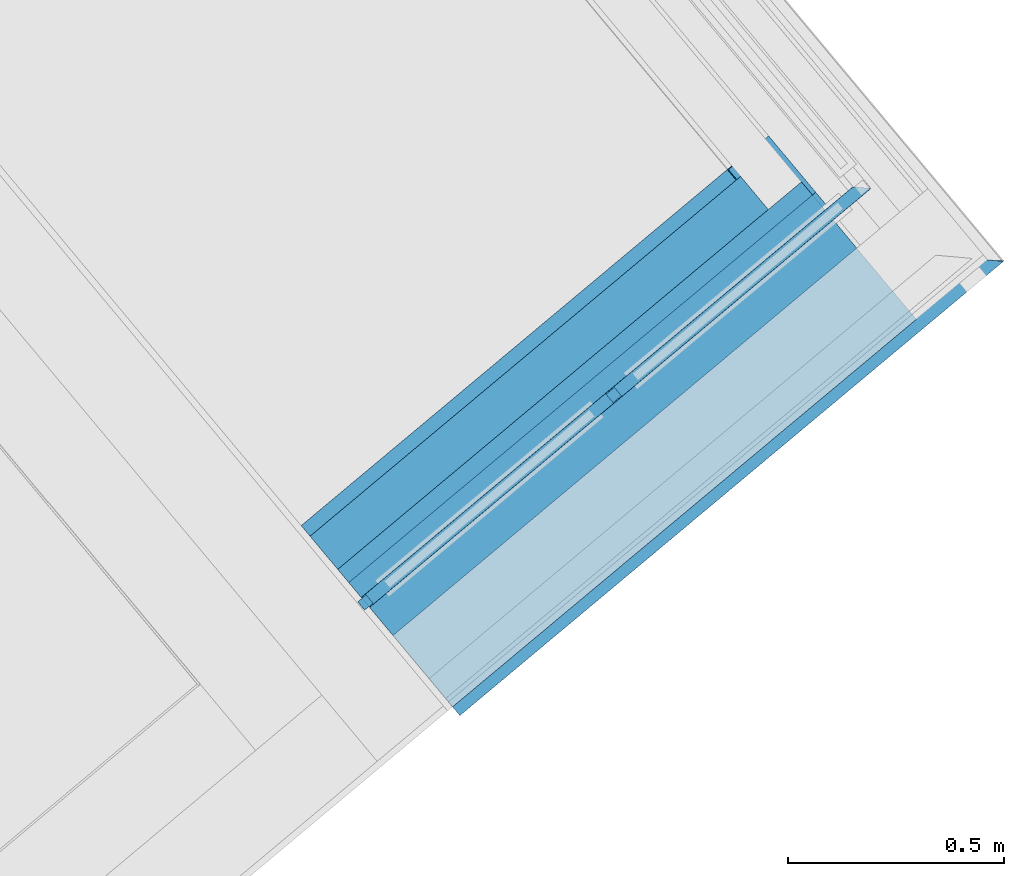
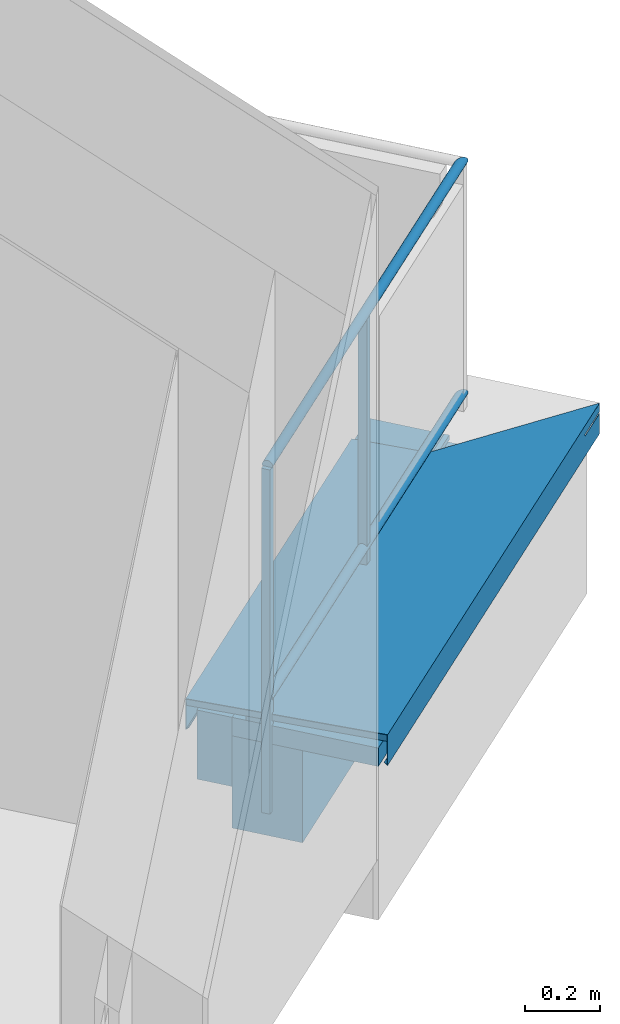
# One storey, part 30 of 58: 10 building element parts, 2 elements without a shape of their own.
"""IFC4 building model written with IfcOpenShell, lengths in metres."""

from ifc_helpers import new_model, entity, si_unit, converted_unit, derived_unit, direction, frame, origin_with_axes, place, context, subcontext, project, spatial, polygons, material, type_object, element, aggregate, save


model = new_model("IFC4")

# Units and contexts
model_context = context("Model", 3, precision=1e-05, world=origin_with_axes(), true_north=direction((0.0, 1.0)))
body_context = subcontext(model_context, "Body", "Model", "MODEL_VIEW")
ifc_project = project(units=[si_unit("LENGTHUNIT", "METRE"), si_unit("AREAUNIT", "SQUARE_METRE"), si_unit("VOLUMEUNIT", "CUBIC_METRE"), converted_unit("PLANEANGLEUNIT", "DEGREE", entity("IfcPlaneAngleMeasure", 0.0174532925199), si_unit("PLANEANGLEUNIT", "RADIAN"), dimensions=[0, 0, 0, 0, 0, 0, 0]), converted_unit("TIMEUNIT", "Year", entity("IfcTimeMeasure", 31556926.0), si_unit("TIMEUNIT", "SECOND"), dimensions=[0, 0, 1, 0, 0, 0, 0]), si_unit("MASSUNIT", "GRAM", prefix="KILO"), si_unit("THERMODYNAMICTEMPERATUREUNIT", "DEGREE_CELSIUS"), si_unit("LUMINOUSINTENSITYUNIT", "LUMEN"), si_unit("ENERGYUNIT", "JOULE", prefix="MEGA"), derived_unit("THERMALCONDUCTANCEUNIT", [(si_unit("POWERUNIT", "WATT"), 1), (si_unit("LENGTHUNIT", "METRE"), -1), (si_unit("THERMODYNAMICTEMPERATUREUNIT", "KELVIN"), -1)]), derived_unit("SPECIFICHEATCAPACITYUNIT", [(si_unit("ENERGYUNIT", "JOULE"), 1), (si_unit("MASSUNIT", "GRAM", prefix="KILO"), -1), (si_unit("THERMODYNAMICTEMPERATUREUNIT", "KELVIN"), -1)]), derived_unit("MASSDENSITYUNIT", [(si_unit("MASSUNIT", "GRAM", prefix="KILO"), 1), (si_unit("VOLUMEUNIT", "CUBIC_METRE"), -1)])], contexts=[model_context])

# Site, building, storey
site_placement = place(None, frame((-0.00153261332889, -0.00661245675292, 0.0), z_axis=(0.0, 0.0, 1.0), x_axis=(1.0, 0.0, 0.0)))
site = spatial("IfcSite", under=ifc_project, at=site_placement, Name="Site", CompositionType="ELEMENT")
building_placement = place(site_placement, origin_with_axes())
building = spatial("IfcBuilding", under=site, at=building_placement, Name="Building", CompositionType="ELEMENT")
storey_placement = place(building_placement, frame((0.0, 0.0, 5.7), z_axis=(0.0, 0.0, 1.0), x_axis=(1.0, 0.0, 0.0)))
storey = spatial("IfcBuildingStorey", under=building, at=storey_placement, Name="DG1", CompositionType="ELEMENT", Elevation=5.7)

# Wall, building element parts
wall_type = type_object("IfcWallType", Name="Balkon Dämmung runter 574 x 610", PredefinedType="NOTDEFINED")
wall_placement = place(storey_placement, frame((13.259988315, 20.4436832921, -0.2), z_axis=(0.0, 0.0, 1.0), x_axis=(0.767365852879, 0.641209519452, 0.0)))
wall = element("IfcWall", 1, at=wall_placement, inside=storey, type_object=wall_type, Name="Wand-004", PredefinedType="NOTDEFINED")
ifc_material_1 = material(Name="Stahl")
building_element_part_1_placement = place(wall_placement, origin_with_axes())
building_element_part_1 = element("IfcBuildingElementPart", 2, at=building_element_part_1_placement, material=ifc_material_1, Name="Stahl", PredefinedType="NOTDEFINED", context=body_context, shape_type="Tessellation", body=[
    polygons([(0.0, 0.330698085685, 0.587937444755), (0.0, 0.330698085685, 0.491006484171), (1.30012100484, 0.330698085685, 0.491006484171), (1.30012100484, 0.330698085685, 0.496604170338), (1.28747735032, 0.330698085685, 0.496604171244), (1.28652006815, 0.330698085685, 0.497561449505), (1.28652006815, 0.330698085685, 0.498822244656), (1.28652006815, 0.330698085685, 0.498915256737), (1.28652006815, 0.330698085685, 0.499999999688), (1.28652006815, 0.330698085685, 0.506731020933), (1.28652006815, 0.330698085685, 0.509050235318), (1.28652006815, 0.330698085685, 0.509099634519), (1.28652006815, 0.330698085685, 0.51136132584), (1.28652006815, 0.330698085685, 0.511410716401), (1.28652006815, 0.330698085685, 0.519224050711), (1.28652006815, 0.330698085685, 0.519273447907), (1.28652006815, 0.330698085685, 0.559999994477), (1.28652006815, 0.330698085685, 0.567947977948), (1.28652006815, 0.330698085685, 0.573880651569), (1.28652006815, 0.330698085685, 0.575576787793), (1.28652006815, 0.330698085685, 0.575979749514), (1.28652006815, 0.330698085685, 0.57982217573), (1.28652006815, 0.330698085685, 0.581921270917), (1.28652006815, 0.330698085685, 0.584015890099), (1.28652006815, 0.330698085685, 0.586106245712), (1.28652006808, 0.330698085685, 0.587937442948), (0.0, 0.332051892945, 0.489652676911), (0.0, 0.331094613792, 0.488695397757), (0.0, 0.321878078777, 0.497911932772), (0.0, 0.32288233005, 0.498822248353), (0.0, -0.239276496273, 0.608570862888), (0.0, -0.240152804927, 0.608602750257), (0.0, -0.240146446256, 0.51136132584), (0.0, -0.232283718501, 0.519224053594), (0.0, -0.231373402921, 0.518219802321), (0.0, -0.240542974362, 0.509050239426), (0.0, -0.241500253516, 0.510007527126), (0.0, -0.241500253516, 0.610006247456), (0.0, 0.332051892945, 0.589243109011), (1.30012097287, 0.322882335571, 0.498822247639), (1.30012098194, 0.325100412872, 0.496604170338), (1.30012101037, 0.332051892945, 0.491006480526), (1.30012101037, 0.332051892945, 0.496604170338), (1.28747735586, 0.332051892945, 0.496604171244), (1.28652007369, 0.332051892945, 0.497561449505), (1.28652007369, 0.332051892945, 0.498822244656), (1.28652007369, 0.332051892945, 0.498915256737), (1.28652007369, 0.332051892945, 0.499999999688), (1.28652007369, 0.332051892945, 0.506731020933), (1.28652007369, 0.332051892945, 0.509050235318), (1.28652007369, 0.332051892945, 0.509099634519), (1.28652007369, 0.332051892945, 0.51136132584), (1.28652007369, 0.332051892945, 0.511410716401), (1.28652007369, 0.332051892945, 0.519224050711), (1.28652007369, 0.332051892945, 0.519273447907), (1.28652007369, 0.332051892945, 0.559999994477), (1.28652007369, 0.332051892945, 0.567947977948), (1.28652007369, 0.332051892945, 0.573880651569), (1.28652007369, 0.332051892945, 0.575576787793), (1.28652007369, 0.332051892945, 0.575979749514), (1.28652007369, 0.332051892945, 0.57982217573), (1.28652007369, 0.332051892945, 0.581921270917), (1.28652007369, 0.332051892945, 0.584015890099), (1.28652007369, 0.332051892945, 0.586106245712), (1.28652007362, 0.332051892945, 0.587937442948), (1.28651917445, 0.112227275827, 0.595846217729), (1.28651902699, 0.0761598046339, 0.597151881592), (1.60182724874, -0.239276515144, 0.608570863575), (1.30012101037, 0.332051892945, 0.489652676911), (1.30012100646, 0.331094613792, 0.488695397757), (1.300120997, 0.328783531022, 0.491006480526), (1.30012097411, 0.323185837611, 0.496604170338), (1.30012096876, 0.32187807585, 0.497911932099), (1.60270772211, -0.240152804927, 0.608602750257), (1.64021248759, -0.240152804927, 0.608602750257), (1.64147858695, -0.240152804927, 0.608602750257), (1.64147858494, -0.240152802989, 0.608570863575), (1.64147775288, -0.240151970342, 0.595846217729), (1.64147723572, -0.240151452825, 0.587937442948), (1.64147711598, -0.240151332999, 0.586106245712), (1.64147697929, -0.240151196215, 0.584015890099), (1.64147684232, -0.240151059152, 0.581921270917), (1.59012603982, -0.240151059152, 0.581921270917), (1.53024364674, -0.240151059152, 0.581921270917), (1.53024364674, -0.240150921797, 0.57982217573), (1.53024364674, -0.240150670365, 0.575979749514), (1.5901579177, -0.240150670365, 0.575979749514), (1.6414764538, -0.240150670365, 0.575979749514), (1.64147642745, -0.240150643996, 0.575576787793), (1.64147631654, -0.240150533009, 0.573880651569), (1.6414759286, -0.2401501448, 0.567947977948), (1.64147540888, -0.240149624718, 0.559999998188), (1.6414727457, -0.240146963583, 0.519273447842), (1.64147274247, -0.240146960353, 0.519224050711), (1.64147223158, -0.240146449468, 0.511410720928), (1.64282604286, -0.240146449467, 0.511410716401), (1.64282604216, -0.240146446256, 0.51136132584), (1.6396070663, -0.24014644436, 0.511361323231), (1.63955767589, -0.24009705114, 0.511410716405), (1.63269921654, -0.233238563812, 0.518269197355), (1.63356475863, -0.23228372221, 0.519224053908), (1.63269922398, -0.231418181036, 0.518269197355), (1.63274862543, -0.23137340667, 0.518219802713), (1.63955768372, -0.23818249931, 0.511410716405), (1.63960707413, -0.238231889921, 0.51136132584), (1.64186875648, -0.240493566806, 0.509099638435), (1.61511864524, -0.240493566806, 0.509099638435), (1.61511864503, -0.240542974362, 0.509050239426), (1.61511864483, -0.240592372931, 0.509099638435), (1.64186875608, -0.240592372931, 0.509099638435), (1.64096085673, -0.241500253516, 0.510007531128), (1.63960706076, -0.241500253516, 0.511361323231), (1.64282603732, -0.241500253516, 0.511361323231), (1.64282603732, -0.241500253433, 0.511410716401), (1.64147222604, -0.241500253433, 0.511410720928), (1.64147273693, -0.241500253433, 0.519224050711), (1.64147274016, -0.241500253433, 0.519273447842), (1.64147540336, -0.241500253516, 0.559999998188), (1.64147592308, -0.241500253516, 0.567947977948), (1.64147631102, -0.241500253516, 0.573880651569), (1.64147642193, -0.241500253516, 0.575576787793), (1.64147644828, -0.241500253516, 0.575979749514), (1.59015791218, -0.241500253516, 0.575979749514), (1.53024364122, -0.241500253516, 0.575979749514), (1.53024364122, -0.241500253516, 0.57982217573), (1.53024364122, -0.241500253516, 0.581921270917), (1.5901260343, -0.241500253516, 0.581921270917), (1.6414768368, -0.241500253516, 0.581921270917), (1.64147697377, -0.241500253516, 0.584015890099), (1.64147711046, -0.241500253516, 0.586106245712), (1.6414772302, -0.241500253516, 0.587937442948), (1.64147774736, -0.241500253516, 0.595846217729), (1.64147857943, -0.241500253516, 0.608570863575), (1.64147858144, -0.241500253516, 0.608602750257), (1.64021248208, -0.241500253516, 0.608602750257), (1.6027077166, -0.241500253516, 0.608602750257), (1.60407158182, -0.241500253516, 0.60865214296), (1.64146214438, -0.241500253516, 0.610006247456), (1.60407173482, -0.204095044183, 0.60865214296), (1.60270787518, -0.202730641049, 0.608602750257), (1.60182740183, -0.201849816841, 0.608570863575), (1.28651918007, 0.113583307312, 0.597151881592), (1.28651932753, 0.149650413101, 0.595846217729), (1.28652007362, 0.332051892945, 0.589243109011)], [[[1, 2, 3, 4, 5, 6, 7, 8, 9, 10, 11, 12, 13, 14, 15, 16, 17, 18, 19, 20, 21, 22, 23, 24, 25, 26]], [[27, 28, 29, 30, 2, 1, 31, 32, 33, 34, 35, 36, 37, 38, 39]], [[2, 30, 40, 41, 3]], [[3, 42, 43, 4]], [[43, 44, 5, 4]], [[45, 6, 5, 44]], [[6, 45, 46, 7]], [[7, 46, 47, 8]], [[8, 47, 48, 9]], [[9, 48, 49, 10]], [[10, 49, 50, 11]], [[11, 50, 51, 12]], [[51, 52, 13, 12]], [[13, 52, 53, 14]], [[15, 14, 53, 54]], [[16, 15, 54, 55]], [[17, 16, 55, 56]], [[18, 17, 56, 57]], [[19, 18, 57, 58]], [[20, 19, 58, 59]], [[21, 20, 59, 60]], [[22, 21, 60, 61]], [[61, 62, 23, 22]], [[23, 62, 63, 24]], [[63, 64, 25, 24]], [[64, 65, 26, 25]], [[31, 1, 26, 66, 67, 68]], [[28, 27, 69, 70]], [[29, 28, 70, 71, 72, 73]], [[30, 29, 73, 40]], [[32, 31, 68, 74]], [[33, 32, 74, 75, 76, 77, 78, 79, 80, 81, 82, 83, 84, 85, 86, 87, 88, 89, 90, 91, 92, 93, 94, 95, 96, 97, 98]], [[34, 33, 98, 99, 100, 101]], [[35, 34, 101, 102, 103]], [[36, 35, 103, 104, 105, 106, 107, 108]], [[37, 36, 108, 109, 110, 111]], [[38, 37, 111, 112, 113, 114, 115, 116, 117, 118, 119, 120, 121, 122, 123, 124, 125, 126, 127, 128, 129, 130, 131, 132, 133, 134, 135, 136, 137, 138]], [[39, 38, 138, 139, 140, 141, 142, 143, 144]], [[27, 39, 144, 65, 64, 63, 62, 61, 60, 59, 58, 57, 56, 55, 54, 53, 52, 51, 50, 49, 48, 47, 46, 45, 44, 43, 42, 69]], [[41, 40, 73, 72]], [[3, 41, 72, 71]], [[69, 42, 3, 71, 70]], [[65, 144, 143, 66, 26]], [[66, 143, 142, 67]], [[141, 68, 67, 142]], [[68, 141, 140, 74]], [[74, 136, 135, 75]], [[75, 135, 134, 76]], [[133, 77, 76, 134]], [[132, 78, 77, 133]], [[131, 79, 78, 132]], [[80, 79, 131, 130]], [[80, 130, 129, 81]], [[129, 128, 82, 81]], [[127, 83, 82, 128]], [[126, 84, 83, 127]], [[125, 85, 84, 126]], [[124, 86, 85, 125]], [[86, 124, 123, 87]], [[87, 123, 122, 88]], [[122, 121, 89, 88]], [[121, 120, 90, 89]], [[120, 119, 91, 90]], [[92, 91, 119, 118]], [[93, 92, 118, 117]], [[94, 93, 117, 116]], [[95, 94, 116, 115]], [[95, 115, 114, 96]], [[114, 113, 97, 96]], [[112, 98, 97, 113]], [[98, 105, 104, 99]], [[99, 104, 103, 102, 100]], [[100, 102, 101]], [[105, 98, 112, 111, 110, 106]], [[109, 107, 106, 110]], [[108, 107, 109]], [[136, 74, 140, 139, 137]], [[137, 139, 138]]], closed=True),
])
ifc_material_2 = material(Name="Holzwerkstoff")
building_element_part_2_placement = place(wall_placement, origin_with_axes())
building_element_part_2 = element("IfcBuildingElementPart", 3, at=building_element_part_2_placement, material=ifc_material_2, Name="Holzwerkstoff", PredefinedType="NOTDEFINED", context=body_context, shape_type="Tessellation", body=[
    polygons([(0.0, 0.329999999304, 0.567947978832), (0.0, 0.330698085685, 0.587937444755), (1.28815005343, 0.330698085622, 0.587937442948), (1.28821400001, 0.330634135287, 0.586106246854), (1.28828699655, 0.330561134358, 0.584015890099), (1.28836014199, 0.330487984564, 0.581921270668), (1.28843344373, 0.330414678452, 0.579822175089), (1.28856762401, 0.330280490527, 0.575979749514), (1.28858169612, 0.330266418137, 0.575576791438), (1.41017729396, 0.33026641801, 0.575576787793), (1.41018672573, 0.330207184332, 0.573880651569), (1.41021971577, 0.329999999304, 0.567947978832), (0.0, -0.130124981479, 0.584015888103), (0.0, -0.189984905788, 0.586106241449), (0.0, -0.239999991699, 0.587852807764), (0.0, -0.239276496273, 0.608570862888), (0.0, 0.160110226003, 0.573880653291), (0.0, 0.0999999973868, 0.575979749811), (1.63939516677, -0.239276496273, 0.608570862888), (1.28787297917, 0.11222723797, 0.5958462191), (1.28814771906, -0.239997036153, 0.587937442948), (1.28815067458, -0.239999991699, 0.587852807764), (1.28821187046, -0.189985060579, 0.586106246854), (1.28828511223, -0.130124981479, 0.584015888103), (1.28835850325, -0.0701429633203, 0.581921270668), (1.28843205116, -0.0100327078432, 0.579822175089), (1.28856668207, 0.100000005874, 0.575979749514), (1.28858080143, 0.111539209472, 0.575576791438), (1.41017639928, 0.111539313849, 0.575576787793), (1.41018602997, 0.160110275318, 0.573880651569), (1.28787153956, -0.239720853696, 0.5958462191)], [[[1, 2, 3, 4, 5, 6, 7, 8, 9, 10, 11, 12]], [[13, 14, 15, 16, 2, 1, 17, 18]], [[2, 16, 19, 20, 3]], [[4, 3, 21, 22, 23]], [[5, 4, 23, 24]], [[6, 5, 24, 25]], [[26, 7, 6, 25]], [[27, 8, 7, 26]], [[27, 28, 9, 8]], [[9, 28, 29, 10]], [[11, 10, 29, 30]], [[30, 12, 11]], [[17, 1, 12, 30]], [[14, 13, 24, 23]], [[15, 14, 23, 22]], [[16, 15, 22, 21, 31, 19]], [[18, 17, 30, 29, 28, 27]], [[13, 18, 27, 26, 25, 24]], [[31, 20, 19]], [[3, 20, 31, 21]]], closed=True),
])
ifc_material_3 = material(Name="EPS 1")
building_element_part_3_placement = place(wall_placement, origin_with_axes())
building_element_part_3 = element("IfcBuildingElementPart", 4, at=building_element_part_3_placement, material=ifc_material_3, Name="EPS 1", PredefinedType="NOTDEFINED", context=body_context, shape_type="Tessellation", body=[
    polygons([(0.0, 0.199999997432, 0.335), (0.0, 0.3, 0.335), (1.30012087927, 0.3, 0.335), (1.30012047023, 0.199999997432, 0.335), (0.0, 0.2, 0.560000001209), (0.0, 0.3, 0.560000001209), (1.30012087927, 0.3, 0.560000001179), (1.30012087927, 0.3, 0.519273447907), (1.30012087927, 0.3, 0.519224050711), (1.30012087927, 0.3, 0.511410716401), (1.30012087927, 0.3, 0.51136132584), (1.30012087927, 0.3, 0.509099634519), (1.30012087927, 0.3, 0.509050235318), (1.30012087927, 0.3, 0.506731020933), (1.30012087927, 0.3, 0.499999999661), (1.30012087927, 0.3, 0.498915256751), (1.30012087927, 0.3, 0.498822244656), (1.30012087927, 0.3, 0.496604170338), (1.30012087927, 0.3, 0.491006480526), (1.30012087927, 0.3, 0.488695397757), (1.30012047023, 0.199999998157, 0.488695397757), (1.30012047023, 0.199999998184, 0.491006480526), (1.30012047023, 0.199999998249, 0.496604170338), (1.30012047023, 0.199999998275, 0.498822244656), (1.30012047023, 0.199999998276, 0.498915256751), (1.30012047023, 0.199999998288, 0.499999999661), (1.30012047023, 0.199999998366, 0.506731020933), (1.30012047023, 0.199999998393, 0.509050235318), (1.30012047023, 0.199999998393, 0.509099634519), (1.30012047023, 0.19999999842, 0.51136132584), (1.30012047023, 0.19999999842, 0.511410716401), (1.30012047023, 0.199999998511, 0.519224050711), (1.30012047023, 0.199999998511, 0.519273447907), (1.30012047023, 0.199999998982, 0.560000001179)], [[[1, 2, 3, 4]], [[2, 1, 5, 6]], [[2, 6, 7, 8, 9, 10, 11, 12, 13, 14, 15, 16, 17, 18, 19, 20, 3]], [[3, 20, 21, 4]], [[5, 1, 4, 21, 22, 23, 24, 25, 26, 27, 28, 29, 30, 31, 32, 33, 34]], [[6, 5, 34, 7]], [[34, 33, 8, 7]], [[33, 32, 9, 8]], [[32, 31, 10, 9]], [[31, 30, 11, 10]], [[30, 29, 12, 11]], [[29, 28, 13, 12]], [[14, 13, 28, 27]], [[15, 14, 27, 26]], [[16, 15, 26, 25]], [[17, 16, 25, 24]], [[18, 17, 24, 23]], [[19, 18, 23, 22]], [[20, 19, 22, 21]]], closed=True),
])
ifc_material_4 = material(Name="Vollholz")
building_element_part_4_placement = place(wall_placement, origin_with_axes())
building_element_part_4 = element("IfcBuildingElementPart", 5, at=building_element_part_4_placement, material=ifc_material_4, Name="Vollholz", PredefinedType="NOTDEFINED", context=body_context, shape_type="Tessellation", body=[
    polygons([(1.41017635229, 0.1, 0.575576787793), (1.41017411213, 0.1, 0.575979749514), (0.0, 0.1, 0.575979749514), (0.0, 0.1, 0.560000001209), (1.41026297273, 0.1, 0.560000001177), (1.41021877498, 0.1, 0.567947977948), (1.41018578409, 0.1, 0.573880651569), (1.4101763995, 0.11153931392, 0.575576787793), (1.41018602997, 0.160110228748, 0.573880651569), (0.0, 0.160110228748, 0.573880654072), (0.0, 0.16, 0.560000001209), (1.41026321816, 0.16, 0.560000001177), (1.41021902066, 0.160063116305, 0.567947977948)], [[[1, 2, 3, 4, 5, 6, 7]], [[8, 2, 1]], [[2, 8, 9, 10, 3]], [[11, 4, 3, 10]], [[12, 5, 4, 11]], [[13, 6, 5, 12]], [[9, 7, 6, 13]], [[8, 1, 7, 9]], [[9, 13, 12, 11, 10]]], closed=True),
])
ifc_material_5 = material(Name="Stahlbeton")
building_element_part_5_placement = place(wall_placement, origin_with_axes())
building_element_part_5 = element("IfcBuildingElementPart", 6, at=building_element_part_5_placement, material=ifc_material_5, Name="Stahlbeton", PredefinedType="NOTDEFINED", context=body_context, shape_type="Tessellation", body=[
    polygons([(1.40011965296, -2.73518807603e-09, 0.498915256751), (1.40011965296, -2.73518985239e-09, 0.500000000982), (0.0, -2.73518807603e-09, 0.499999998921), (0.0, -2.73518807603e-09, 0.200000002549), (1.40011965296, -2.73518807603e-09, 0.2), (1.40011965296, -2.73518807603e-09, 0.334999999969), (1.40011965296, -2.73518807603e-09, 0.488695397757), (1.40011965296, -2.73518807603e-09, 0.491006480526), (1.40011965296, -2.73518807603e-09, 0.496604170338), (1.40011965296, -2.73518807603e-09, 0.498822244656), (1.40012047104, 0.199999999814, 0.500000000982), (1.40012047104, 0.199999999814, 0.498915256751), (0.0, 0.199999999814, 0.500000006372), (0.0, 0.199999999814, 0.334999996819), (0.0, 0.199999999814, 0.200000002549), (1.40012047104, 0.199999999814, 0.2), (1.40012047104, 0.199999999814, 0.334999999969), (1.40012047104, 0.199999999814, 0.488695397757), (1.40012047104, 0.199999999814, 0.491006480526), (1.40012047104, 0.199999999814, 0.496604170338), (1.40012047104, 0.199999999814, 0.498822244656)], [[[1, 2, 3, 4, 5, 6, 7, 8, 9, 10]], [[11, 2, 1, 12]], [[2, 11, 13, 3]], [[3, 13, 14, 15, 4]], [[16, 5, 4, 15]], [[17, 6, 5, 16]], [[18, 7, 6, 17]], [[19, 8, 7, 18]], [[20, 9, 8, 19]], [[21, 10, 9, 20]], [[12, 1, 10, 21]], [[11, 12, 21, 20, 19, 18, 17, 14, 13]], [[17, 16, 15, 14]]], closed=True),
])
ifc_material_6 = material(Name="Brettschichtholz")
building_element_part_6_placement = place(wall_placement, origin_with_axes())
building_element_part_6 = element("IfcBuildingElementPart", 7, at=building_element_part_6_placement, material=ifc_material_6, Name="Brettschichtholz", PredefinedType="NOTDEFINED", context=body_context, shape_type="Tessellation", body=[
    polygons([(0.0, -0.214999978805, 0.500000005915), (0.0, -0.214999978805, 0.560000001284), (0.0, -0.190124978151, 0.560000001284), (0.0, -0.130124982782, 0.560000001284), (0.0, 0.100000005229, 0.560000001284), (0.0, 0.160000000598, 0.560000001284), (0.0, 0.200000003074, 0.560000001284), (0.0, 0.199999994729, 0.500000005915), (1.40011877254, -0.214999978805, 0.500000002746), (1.40011877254, -0.214999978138, 0.506731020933), (1.40011877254, -0.214999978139, 0.509050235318), (1.40011877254, -0.214999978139, 0.509099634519), (1.40011877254, -0.214999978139, 0.51136132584), (1.40011877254, -0.214999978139, 0.511410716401), (1.40011877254, -0.214999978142, 0.519224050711), (1.40011877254, -0.214999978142, 0.519273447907), (1.40011877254, -0.214999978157, 0.560000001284), (1.40011887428, -0.190124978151, 0.560000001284), (1.40011911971, -0.130124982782, 0.560000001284), (1.40012006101, 0.100000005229, 0.560000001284), (1.40012030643, 0.160000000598, 0.560000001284), (1.40012047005, 0.200000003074, 0.560000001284), (1.40012047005, 0.199999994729, 0.500000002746), (1.40012047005, 0.19999999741, 0.519273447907), (1.40012047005, 0.199999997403, 0.519224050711), (1.40012047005, 0.199999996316, 0.511410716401), (1.40012047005, 0.199999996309, 0.51136132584), (1.40012047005, 0.199999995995, 0.509099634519), (1.40012047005, 0.199999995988, 0.509050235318), (1.40012047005, 0.199999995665, 0.506731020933)], [[[1, 2, 3, 4, 5, 6, 7, 8]], [[2, 1, 9, 10, 11, 12, 13, 14, 15, 16, 17]], [[3, 2, 17, 18]], [[4, 3, 18, 19]], [[5, 4, 19, 20]], [[6, 5, 20, 21]], [[7, 6, 21, 22]], [[23, 8, 7, 22, 24, 25, 26, 27, 28, 29, 30]], [[1, 8, 23, 9]], [[10, 9, 23, 30]], [[11, 10, 30, 29]], [[12, 11, 29, 28]], [[13, 12, 28, 27]], [[14, 13, 27, 26]], [[15, 14, 26, 25]], [[25, 24, 16, 15]], [[21, 20, 19, 18, 17, 16, 24, 22]]], closed=True),
])
aggregate(wall, [building_element_part_1, building_element_part_2, building_element_part_3, building_element_part_4, building_element_part_5, building_element_part_6])

# Railing, building element parts
railing_type = type_object("IfcRailingType", Name="Geländerart", PredefinedType="NOTDEFINED")
railing_placement = place(storey_placement, frame((13.1317464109, 20.5971564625, 0.38), z_axis=(0.0, 0.0, 1.0), x_axis=(1.0, 0.0, 0.0)))
railing = element("IfcRailing", 8, at=railing_placement, inside=storey, type_object=railing_type, Name="Geländer - 001", PredefinedType="NOTDEFINED")
ifc_material_7 = material(Name="Aluminium")
building_element_part_7_placement = place(railing_placement, origin_with_axes())
building_element_part_7 = element("IfcBuildingElementPart", 9, at=building_element_part_7_placement, material=ifc_material_7, Name="Aluminium", PredefinedType="NOTDEFINED", context=body_context, shape_type="Tessellation", body=[
    polygons([(0.0817222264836, -0.078320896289, -0.3), (0.0656948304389, -0.0591343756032, -0.3), (0.0656948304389, -0.0591343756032, 0.82), (0.0817222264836, -0.078320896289, 0.82), (0.0625357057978, -0.0943482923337, -0.3), (0.0465083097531, -0.0751617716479, -0.3), (0.0465083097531, -0.0751617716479, 0.82), (0.0625357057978, -0.0943482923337, 0.82)], [[[1, 2, 3, 4]], [[1, 5, 6, 2]], [[2, 6, 7, 3]], [[4, 3, 7, 8]], [[5, 1, 4, 8]], [[6, 5, 8, 7]]], closed=True),
])
building_element_part_8_placement = place(railing_placement, origin_with_axes())
building_element_part_8 = element("IfcBuildingElementPart", 10, at=building_element_part_8_placement, material=ifc_material_7, Name="Aluminium", PredefinedType="NOTDEFINED", context=body_context, shape_type="Tessellation", body=[
    polygons([(0.0544988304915, -0.065229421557, 0.825), (0.0546449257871, -0.0654043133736, 0.827604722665), (1.1940181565, 0.886367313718, 0.827604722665), (1.19369716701, 0.886396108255, 0.825), (0.0546449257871, -0.0654043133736, 0.822395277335), (0.0550787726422, -0.0659236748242, 0.81986969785), (0.0557871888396, -0.066771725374, 0.8175), (0.0567486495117, -0.067922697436, 0.815358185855), (0.0579339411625, -0.0693416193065, 0.813509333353), (0.0593070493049, -0.0709853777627, 0.812009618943), (0.0608262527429, -0.0728040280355, 0.810904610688), (0.0624453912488, -0.0747423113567, 0.810227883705), (0.0641152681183, -0.0767413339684, 0.81), (0.0657851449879, -0.0787403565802, 0.810227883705), (0.0674042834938, -0.0806786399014, 0.810904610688), (0.0689234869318, -0.0824972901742, 0.812009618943), (0.0702965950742, -0.0841410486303, 0.813509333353), (0.071481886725, -0.0855599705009, 0.815358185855), (0.0724433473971, -0.0867109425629, 0.8175), (0.0731517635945, -0.0875589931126, 0.81986969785), (0.0735856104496, -0.0880783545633, 0.822395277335), (0.0737317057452, -0.0882532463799, 0.825), (0.0735856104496, -0.0880783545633, 0.827604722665), (0.0731517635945, -0.0875589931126, 0.83013030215), (0.0724433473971, -0.0867109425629, 0.8325), (0.071481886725, -0.0855599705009, 0.834641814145), (0.0702965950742, -0.0841410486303, 0.836490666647), (0.0689234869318, -0.0824972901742, 0.837990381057), (0.0674042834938, -0.0806786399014, 0.839095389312), (0.0657851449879, -0.0787403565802, 0.839772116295), (0.0641152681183, -0.0767413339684, 0.84), (0.0624453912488, -0.0747423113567, 0.839772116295), (0.0608262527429, -0.0728040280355, 0.839095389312), (0.0593070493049, -0.0709853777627, 0.837990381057), (0.0579339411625, -0.0693416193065, 0.836490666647), (0.0567486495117, -0.067922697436, 0.834641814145), (0.0557871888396, -0.066771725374, 0.8325), (0.0550787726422, -0.0659236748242, 0.83013030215), (1.19497137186, 0.886281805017, 0.83013030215), (1.19652785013, 0.88614218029, 0.8325), (1.1986402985, 0.885952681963, 0.834641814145), (1.2012445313, 0.885719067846, 0.836490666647), (1.20426142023, 0.885448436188, 0.837990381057), (1.20759929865, 0.885149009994, 0.839095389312), (1.21115674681, 0.884829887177, 0.839772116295), (1.21482567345, 0.884500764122, 0.84), (1.21849460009, 0.884171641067, 0.839772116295), (1.22205204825, 0.88385251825, 0.839095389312), (1.22538992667, 0.883553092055, 0.837990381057), (1.2284068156, 0.883282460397, 0.836490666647), (1.2310110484, 0.883048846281, 0.834641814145), (1.23312349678, 0.882859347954, 0.8325), (1.23467997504, 0.882719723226, 0.83013030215), (1.23563319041, 0.882634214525, 0.827604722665), (1.23595417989, 0.882605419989, 0.825), (1.23563319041, 0.882634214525, 0.822395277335), (1.23467997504, 0.882719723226, 0.81986969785), (1.23312349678, 0.882859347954, 0.8175), (1.2310110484, 0.883048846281, 0.815358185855), (1.2284068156, 0.883282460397, 0.813509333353), (1.22538992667, 0.883553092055, 0.812009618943), (1.22205204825, 0.88385251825, 0.810904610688), (1.21849460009, 0.884171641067, 0.810227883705), (1.21482567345, 0.884500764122, 0.81), (1.21115674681, 0.884829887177, 0.810227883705), (1.20759929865, 0.885149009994, 0.810904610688), (1.20426142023, 0.885448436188, 0.812009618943), (1.2012445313, 0.885719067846, 0.813509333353), (1.1986402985, 0.885952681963, 0.815358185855), (1.19652785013, 0.88614218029, 0.8175), (1.19497137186, 0.886281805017, 0.81986969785), (1.1940181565, 0.886367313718, 0.822395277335)], [[[1, 2, 3, 4]], [[1, 5, 6, 7, 8, 9, 10, 11, 12, 13, 14, 15, 16, 17, 18, 19, 20, 21, 22, 23, 24, 25, 26, 27, 28, 29, 30, 31, 32, 33, 34, 35, 36, 37, 38, 2]], [[2, 38, 39, 3]], [[4, 3, 39, 40, 41, 42, 43, 44, 45, 46, 47, 48, 49, 50, 51, 52, 53, 54, 55, 56, 57, 58, 59, 60, 61, 62, 63, 64, 65, 66, 67, 68, 69, 70, 71, 72]], [[5, 1, 4, 72]], [[6, 5, 72, 71]], [[7, 6, 71, 70]], [[8, 7, 70, 69]], [[9, 8, 69, 68]], [[10, 9, 68, 67]], [[11, 10, 67, 66]], [[12, 11, 66, 65]], [[13, 12, 65, 64]], [[14, 13, 64, 63]], [[15, 14, 63, 62]], [[16, 15, 62, 61]], [[17, 16, 61, 60]], [[18, 17, 60, 59]], [[19, 18, 59, 58]], [[20, 19, 58, 57]], [[21, 20, 57, 56]], [[22, 21, 56, 55]], [[23, 22, 55, 54]], [[24, 23, 54, 53]], [[25, 24, 53, 52]], [[26, 25, 52, 51]], [[27, 26, 51, 50]], [[28, 27, 50, 49]], [[29, 28, 49, 48]], [[30, 29, 48, 47]], [[31, 30, 47, 46]], [[32, 31, 46, 45]], [[33, 32, 45, 44]], [[34, 33, 44, 43]], [[35, 34, 43, 42]], [[36, 35, 42, 41]], [[37, 36, 41, 40]], [[38, 37, 40, 39]]], closed=True),
])
building_element_part_9_placement = place(railing_placement, origin_with_axes())
building_element_part_9 = element("IfcBuildingElementPart", 11, at=building_element_part_9_placement, material=ifc_material_7, Name="Aluminium", PredefinedType="NOTDEFINED", context=body_context, shape_type="Tessellation", body=[
    polygons([(0.0544988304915, -0.065229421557, 0.07), (0.0546449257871, -0.0654043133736, 0.072604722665), (1.1940181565, 0.886367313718, 0.072604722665), (1.19369716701, 0.886396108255, 0.07), (0.0546449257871, -0.0654043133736, 0.067395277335), (0.0550787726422, -0.0659236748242, 0.0648696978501), (0.0557871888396, -0.066771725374, 0.0625), (0.0567486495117, -0.067922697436, 0.0603581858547), (0.0579339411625, -0.0693416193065, 0.0585093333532), (0.0593070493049, -0.0709853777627, 0.0570096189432), (0.0608262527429, -0.0728040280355, 0.0559046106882), (0.0624453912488, -0.0747423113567, 0.0552278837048), (0.0641152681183, -0.0767413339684, 0.055), (0.0657851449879, -0.0787403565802, 0.0552278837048), (0.0674042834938, -0.0806786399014, 0.0559046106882), (0.0689234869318, -0.0824972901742, 0.0570096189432), (0.0702965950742, -0.0841410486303, 0.0585093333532), (0.071481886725, -0.0855599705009, 0.0603581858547), (0.0724433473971, -0.0867109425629, 0.0625), (0.0731517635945, -0.0875589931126, 0.0648696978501), (0.0735856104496, -0.0880783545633, 0.067395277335), (0.0737317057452, -0.0882532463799, 0.07), (0.0735856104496, -0.0880783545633, 0.072604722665), (0.0731517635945, -0.0875589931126, 0.0751303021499), (0.0724433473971, -0.0867109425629, 0.0775), (0.071481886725, -0.0855599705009, 0.0796418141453), (0.0702965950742, -0.0841410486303, 0.0814906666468), (0.0689234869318, -0.0824972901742, 0.0829903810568), (0.0674042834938, -0.0806786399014, 0.0840953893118), (0.0657851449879, -0.0787403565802, 0.0847721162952), (0.0641152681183, -0.0767413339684, 0.085), (0.0624453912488, -0.0747423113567, 0.0847721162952), (0.0608262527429, -0.0728040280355, 0.0840953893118), (0.0593070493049, -0.0709853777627, 0.0829903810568), (0.0579339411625, -0.0693416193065, 0.0814906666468), (0.0567486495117, -0.067922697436, 0.0796418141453), (0.0557871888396, -0.066771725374, 0.0775), (0.0550787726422, -0.0659236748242, 0.0751303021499), (1.19497137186, 0.886281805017, 0.0751303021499), (1.19652785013, 0.88614218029, 0.0775), (1.1986402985, 0.885952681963, 0.0796418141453), (1.2012445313, 0.885719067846, 0.0814906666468), (1.20426142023, 0.885448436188, 0.0829903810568), (1.20759929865, 0.885149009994, 0.0840953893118), (1.21115674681, 0.884829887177, 0.0847721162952), (1.21482567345, 0.884500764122, 0.085), (1.21849460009, 0.884171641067, 0.0847721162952), (1.22205204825, 0.88385251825, 0.0840953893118), (1.22538992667, 0.883553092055, 0.0829903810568), (1.2284068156, 0.883282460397, 0.0814906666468), (1.2310110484, 0.883048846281, 0.0796418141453), (1.23312349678, 0.882859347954, 0.0775), (1.23467997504, 0.882719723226, 0.0751303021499), (1.23563319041, 0.882634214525, 0.072604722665), (1.23595417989, 0.882605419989, 0.07), (1.23563319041, 0.882634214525, 0.067395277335), (1.23467997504, 0.882719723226, 0.0648696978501), (1.23312349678, 0.882859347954, 0.0625), (1.2310110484, 0.883048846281, 0.0603581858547), (1.2284068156, 0.883282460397, 0.0585093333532), (1.22538992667, 0.883553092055, 0.0570096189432), (1.22205204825, 0.88385251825, 0.0559046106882), (1.21849460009, 0.884171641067, 0.0552278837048), (1.21482567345, 0.884500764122, 0.055), (1.21115674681, 0.884829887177, 0.0552278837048), (1.20759929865, 0.885149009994, 0.0559046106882), (1.20426142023, 0.885448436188, 0.0570096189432), (1.2012445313, 0.885719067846, 0.0585093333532), (1.1986402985, 0.885952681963, 0.0603581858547), (1.19652785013, 0.88614218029, 0.0625), (1.19497137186, 0.886281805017, 0.0648696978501), (1.1940181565, 0.886367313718, 0.067395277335)], [[[1, 2, 3, 4]], [[1, 5, 6, 7, 8, 9, 10, 11, 12, 13, 14, 15, 16, 17, 18, 19, 20, 21, 22, 23, 24, 25, 26, 27, 28, 29, 30, 31, 32, 33, 34, 35, 36, 37, 38, 2]], [[2, 38, 39, 3]], [[4, 3, 39, 40, 41, 42, 43, 44, 45, 46, 47, 48, 49, 50, 51, 52, 53, 54, 55, 56, 57, 58, 59, 60, 61, 62, 63, 64, 65, 66, 67, 68, 69, 70, 71, 72]], [[5, 1, 4, 72]], [[6, 5, 72, 71]], [[7, 6, 71, 70]], [[8, 7, 70, 69]], [[9, 8, 69, 68]], [[10, 9, 68, 67]], [[11, 10, 67, 66]], [[12, 11, 66, 65]], [[13, 12, 65, 64]], [[14, 13, 64, 63]], [[15, 14, 63, 62]], [[16, 15, 62, 61]], [[17, 16, 61, 60]], [[18, 17, 60, 59]], [[19, 18, 59, 58]], [[20, 19, 58, 57]], [[21, 20, 57, 56]], [[22, 21, 56, 55]], [[23, 22, 55, 54]], [[24, 23, 54, 53]], [[25, 24, 53, 52]], [[26, 25, 52, 51]], [[27, 26, 51, 50]], [[28, 27, 50, 49]], [[29, 28, 49, 48]], [[30, 29, 48, 47]], [[31, 30, 47, 46]], [[32, 31, 46, 45]], [[33, 32, 45, 44]], [[34, 33, 44, 43]], [[35, 34, 43, 42]], [[36, 35, 42, 41]], [[37, 36, 41, 40]], [[38, 37, 40, 39]]], closed=True),
])
building_element_part_10_placement = place(railing_placement, origin_with_axes())
building_element_part_10 = element("IfcBuildingElementPart", 12, at=building_element_part_10_placement, material=ifc_material_7, Name="Aluminium", PredefinedType="NOTDEFINED", context=body_context, shape_type="Tessellation", body=[
    polygons([(0.65707742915, 0.402300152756, -0.3), (0.641050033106, 0.421486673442, -0.3), (0.641050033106, 0.421486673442, 0.82), (0.65707742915, 0.402300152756, 0.82), (0.637890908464, 0.386272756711, -0.3), (0.62186351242, 0.405459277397, -0.3), (0.62186351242, 0.405459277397, 0.82), (0.637890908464, 0.386272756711, 0.82)], [[[1, 2, 3, 4]], [[1, 5, 6, 2]], [[2, 6, 7, 3]], [[4, 3, 7, 8]], [[5, 1, 4, 8]], [[6, 5, 8, 7]]], closed=True),
])
aggregate(railing, [building_element_part_7, building_element_part_8, building_element_part_9, building_element_part_10])

save(model, "model.ifc")
